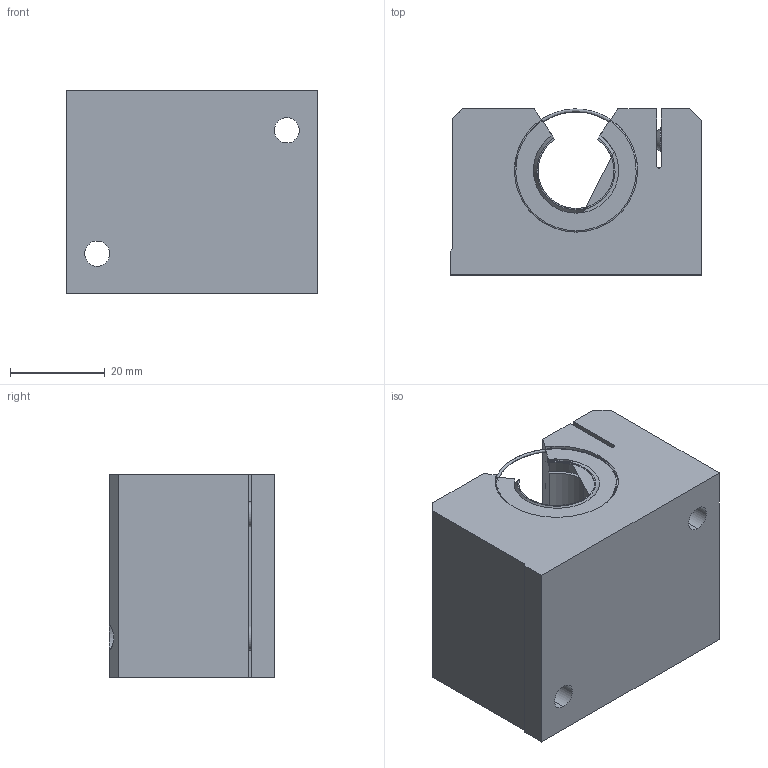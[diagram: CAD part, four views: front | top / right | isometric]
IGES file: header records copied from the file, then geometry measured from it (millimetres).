
Start section: 3D InterOp IGES (Version 21 0 1), Spatial Corp. Copyright (c) 1999-2007.
Global section: file name: SLS-16-OP.igs; native system: Spatial Corp.; preprocessor: 3D InterOp GENERIC/IGES 3.0; author: Noname; organization: Noname; date: 20220310.163717; units: millimetre
Bounding box: 53 x 35 x 43 mm (x, y, z)
Surface area: 16716.1 mm2 (no closed solid volume)
Topology: 0 solids, 0 shells, 147 faces, 800 edges, 790 vertices
Faces by surface type: revolution 101, extrusion 46
